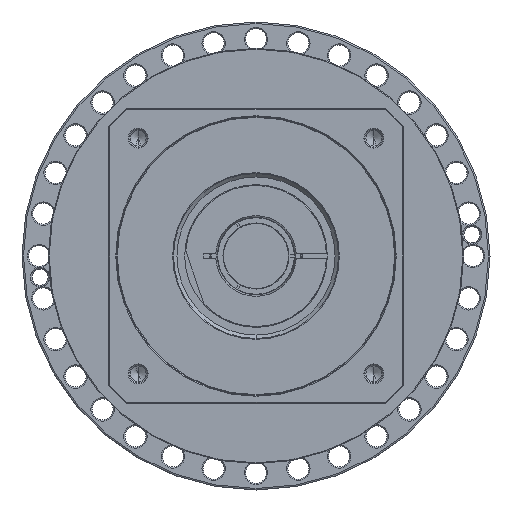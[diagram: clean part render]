
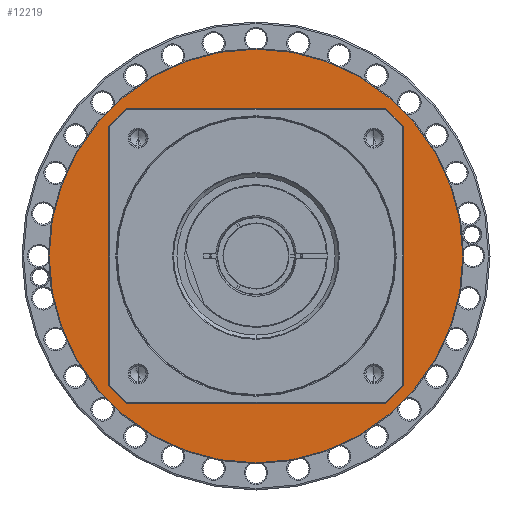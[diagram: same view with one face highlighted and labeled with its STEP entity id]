
A CAD part, left-side view. The second image highlights one B-rep face of the part: STEP entity #12219.
In plain terms, the highlighted planar face has unit normal (-1, 0, 0) as drawn and (1, 0, 0) by its records, which use the part's own axes.
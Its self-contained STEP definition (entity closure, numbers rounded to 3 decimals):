
#11746=CARTESIAN_POINT('',(-0.5,0.,
0.));
#11747=DIRECTION('',(-1.,0.,0.));
#11748=DIRECTION('',(0.,1.,0.));
#11749=AXIS2_PLACEMENT_3D('',#11746,#11747,#11748);
#11751=CARTESIAN_POINT('',(-0.5,0.,
0.));
#11752=DIRECTION('',(-1.,0.,0.));
#11753=DIRECTION('',(0.,-1.,0.));
#11754=AXIS2_PLACEMENT_3D('',#11751,#11752,#11753);
#11756=CARTESIAN_POINT('',(-0.5,0.,0.));
#11757=DIRECTION('',(-1.,0.,0.));
#11758=DIRECTION('',(0.,-1.,0.));
#11759=AXIS2_PLACEMENT_3D('',#11756,#11757,#11758);
#11761=CARTESIAN_POINT('',(-0.5,0.,0.));
#11762=DIRECTION('',(-1.,0.,0.));
#11763=DIRECTION('',(0.,1.,0.));
#11764=AXIS2_PLACEMENT_3D('',#11761,#11762,#11763);
#11790=CARTESIAN_POINT('',(-0.5,-133.5,0.));
#11791=CARTESIAN_POINT('',(-0.5,133.5,0.));
#11792=VERTEX_POINT('',#11790);
#11793=VERTEX_POINT('',#11791);
#11838=CARTESIAN_POINT('',(-0.5,88.5,
0.));
#11839=CARTESIAN_POINT('',(-0.5,-88.5,
0.));
#11840=VERTEX_POINT('',#11838);
#11841=VERTEX_POINT('',#11839);
#12204=CARTESIAN_POINT('',(-0.5,0.,0.));
#12205=DIRECTION('',(1.,0.,0.));
#12206=DIRECTION('',(0.,-1.,0.));
#12207=AXIS2_PLACEMENT_3D('',#12204,#12205,#12206);
#12208=PLANE('',#12207);
#12209=ORIENTED_EDGE('',*,*,#12145,.T.);
#12210=ORIENTED_EDGE('',*,*,#12160,.T.);
#12211=EDGE_LOOP('',(#12209,#12210));
#12212=FACE_OUTER_BOUND('',#12211,.F.);
#12214=ORIENTED_EDGE('',*,*,#12213,.F.);
#12216=ORIENTED_EDGE('',*,*,#12215,.F.);
#12217=EDGE_LOOP('',(#12214,#12216));
#12218=FACE_BOUND('',#12217,.F.);
#12219=ADVANCED_FACE('',(#12212,#12218),#12208,.T.);
#11750=CIRCLE('',#11749,88.5);
#11755=CIRCLE('',#11754,88.5);
#11760=CIRCLE('',#11759,133.5);
#11765=CIRCLE('',#11764,133.5);
#12145=EDGE_CURVE('',#11792,#11793,#11760,.T.);
#12160=EDGE_CURVE('',#11793,#11792,#11765,.T.);
#12213=EDGE_CURVE('',#11840,#11841,#11750,.T.);
#12215=EDGE_CURVE('',#11841,#11840,#11755,.T.);
